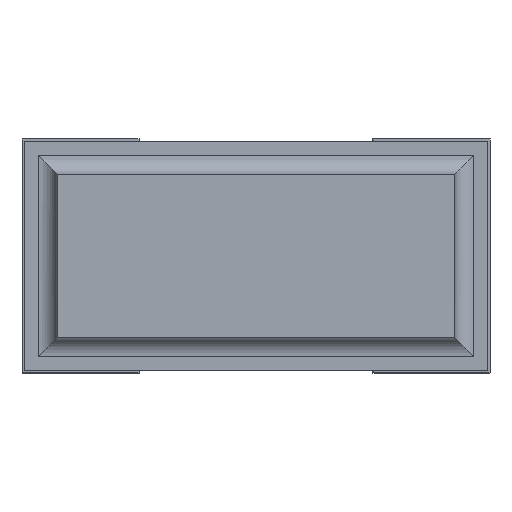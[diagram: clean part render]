
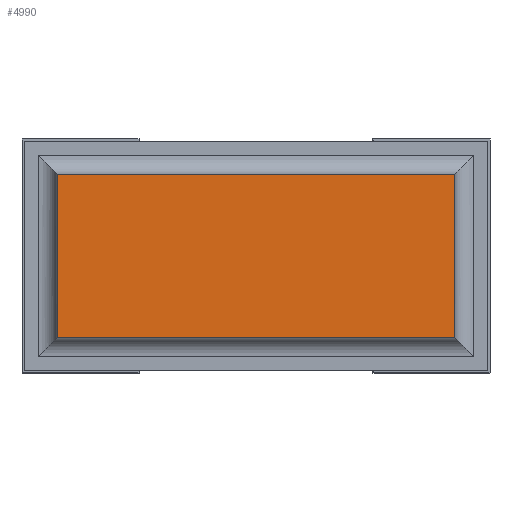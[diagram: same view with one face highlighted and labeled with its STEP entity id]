
A CAD part, front view. The second image highlights one B-rep face of the part: STEP entity #4990.
In plain terms, the highlighted planar face has unit normal (0, -1, 0).
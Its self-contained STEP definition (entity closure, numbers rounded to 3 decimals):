
#68=PLANE('',#5342);
#318=FACE_OUTER_BOUND('',#629,.T.);
#629=EDGE_LOOP('',(#3525,#3526,#3527,#3528));
#951=LINE('',#7127,#1603);
#959=LINE('',#7150,#1611);
#967=LINE('',#7163,#1619);
#968=LINE('',#7165,#1620);
#1603=VECTOR('',#5723,10.);
#1611=VECTOR('',#5741,10.);
#1619=VECTOR('',#5755,10.);
#1620=VECTOR('',#5758,10.);
#2321=VERTEX_POINT('',#7123);
#2322=VERTEX_POINT('',#7125);
#2331=VERTEX_POINT('',#7147);
#2332=VERTEX_POINT('',#7149);
#2779=EDGE_CURVE('',#2321,#2322,#951,.T.);
#2789=EDGE_CURVE('',#2331,#2332,#959,.T.);
#2797=EDGE_CURVE('',#2321,#2331,#967,.T.);
#2798=EDGE_CURVE('',#2332,#2322,#968,.T.);
#3525=ORIENTED_EDGE('',*,*,#2789,.F.);
#3526=ORIENTED_EDGE('',*,*,#2797,.F.);
#3527=ORIENTED_EDGE('',*,*,#2779,.T.);
#3528=ORIENTED_EDGE('',*,*,#2798,.F.);
#4990=ADVANCED_FACE('',(#318),#68,.T.);
#5342=AXIS2_PLACEMENT_3D('',#7164,#5756,#5757);
#5723=DIRECTION('',(0.,0.,-1.));
#5741=DIRECTION('',(0.,0.,-1.));
#5755=DIRECTION('',(1.,0.,0.));
#5756=DIRECTION('center_axis',(0.,-1.,0.));
#5757=DIRECTION('ref_axis',(0.,0.,-1.));
#5758=DIRECTION('',(-1.,0.,0.));
#7123=CARTESIAN_POINT('',(0.075,0.,0.425));
#7125=CARTESIAN_POINT('',(0.075,0.,0.075));
#7127=CARTESIAN_POINT('',(0.075,0.,0.425));
#7147=CARTESIAN_POINT('',(0.925,0.,0.425));
#7149=CARTESIAN_POINT('',(0.925,0.,0.075));
#7150=CARTESIAN_POINT('',(0.925,0.,0.425));
#7163=CARTESIAN_POINT('',(0.075,0.,0.425));
#7164=CARTESIAN_POINT('Origin',(0.926,0.,
0.25));
#7165=CARTESIAN_POINT('',(0.925,0.,0.075));
